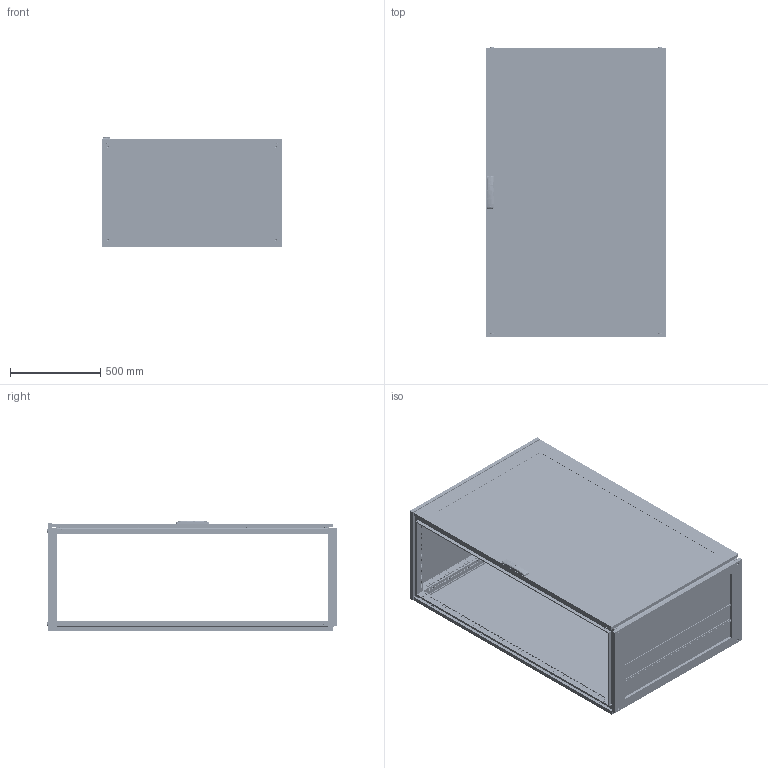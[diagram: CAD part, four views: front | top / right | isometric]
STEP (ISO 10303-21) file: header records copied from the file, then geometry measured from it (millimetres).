
FILE_DESCRIPTION (( 'STEP AP203' ), '1' );
FILE_NAME ('R5CQEN16106AX +.STEP', '2025-05-07T13:04:18', ( '' ), ( '' ), 'SwSTEP 2.0', 'SolidWorks 2022', '' );
FILE_SCHEMA (( 'CONFIG_CONTROL_DESIGN' ));
Length unit declared in the file: millimetre
Products named in the file (66): RB.1957.00.00.0 simple_-16; Square cap 20x20 simple; RB.2456.00.00.0 simple_-02; M6 MGR-MKO-0625 simple_Thread; RB.2969.00.00.0 СБ simple; RB.2680.00.00.0 СБ simple; RB.2499.01.00.0 СБ simple_-25; RB.2499.00.00.0 СБ simple_-26; TPA.08.0084.00.00.0 simple; M6 DIN 985 cl.6,0 Zinc_straight; RB.0528.00.01.0 simple_-03; RB.2680.00.02.0 simple; 4.8x13 DIN 7981 PH Zinc_straight; M8x12 AC00C476 cl.8,8 Zinc_stright; RB.2680.00.01.0 simple; RB.2357.00.00.0 simple_-07; RB.2968.00.00.0 simple; R5NCRE-Assem simple_R5NCRE16100; TPA.08.0083.00.00.0 simple; RB.1633.00.01.0 simple_-04; RB.0562.01.00.0 СБ simple_-11; RB.2755.00.00.0 СБ simple_-26; RB.2696.00.00.0 simple; M12x16 ISO 7380-1 HX cl.4,8 Zinc_straight; AC00C446-R; RB.2455.00.00.0 simple_-04; RB.2686.00.00.0 simple; Glass CPTE_1600x1000; RB.0562.00.00.0 СБ simple_-11; RB.0562.01.01.0 simple_-11; TPA.08.0139.00.01.0 simple; Pin 4x16 DIN 7 AISI 303 (A1) simple; RB.2969.00.01.0 simple; PF 7x14 CRE simple_1600x1000; RB.1867.01.01.0 simple_-17; RB.2052.01.00.0 СБ simple_-13; RB.0054.01.01.0 simple_-13; RB.2528.00.00.0 simple_-03; RB.1867.01.00.0 СБ simple_-60; ATOS Traction guide ILY03.35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
Assembly tree (176 placements, depth 5):
  R5CQEN16106AX +
    R5NCPTE - Assem simple_R5NCPTE16100
      RB.0562.00.00.0 СБ simple_-11
        RB.0562.01.00.0 СБ simple_-11
          RB.0562.01.01.0 simple_-11
          М6х12 A5100231_straight  x9
          RB.2702.00.00.0 simple  x4
          PF 7,5x15 CPE simple_1600x1000
          Glass CPTE_1600x1000
          Glue CPTE simple_1600x1000
        Square cap 20x20 simple  x2
        M6x15 Erickson cl.4,8 Zinc  x3
        RB.0528.00.01.0 simple_-03  x2
        ATOS Traction guide ILY03.35  x4
        RB.2357.00.00.0 simple_-07
        RB.2680.00.00.0 СБ simple
          TPA.08.0139.00.01.0 simple
          RB.2680.00.01.0 simple
          RB.2680.00.02.0 simple  x2
        TPA.08.0139.00.03.0  x2
        M6 DIN 985 cl.6,0 Zinc_straight  x4
        4,0x16 F Torx Zinc (ART 88200)_thread  x2
        RB.0528.04.00.0 СБ simple  x2
          RB.0528.04.01.0 simple
          Pressing stud FH-M6-12_M6x12mm
      M6x10 DIN 912 HX cl.8,8 Zinc_straight  x8
      4.8x13 DIN 7981 PH Zinc_straight
      7 DIN 6799 Zinc simple  x4
      RB.2968.00.00.0 simple  x4
      RB.2969.00.00.0 СБ simple  x4
        RB.2969.00.01.0 simple
        Pin 4x16 DIN 7 AISI 303 (A1) simple
        M6 MGR-MKO-0625 simple_Thread
      AC00C446-R
      RB.2696.00.00.0 simple  x4
      7 DIN 6799 Zinc  x4
    R5NCRE-Assem simple_R5NCRE16100
      RB.2052.00.00.0 СБ simple_-13
        RB.2052.01.00.0 СБ simple_-13
          RB.0054.01.01.0 simple_-13
          М6х12 A5100231_straight  x4
        PF 7x14 CRE simple_1600x1000
      RB.2172.00.00.1 simple  x8
      M6x10 DIN 7500 E HX cl.5.8 Zinc_straight  x8
      M6x10 DIN 7500 M Torx cl.5.8 Zinc_straight  x8
    R5NKMN - Assem simple_R5NKMN16 (1000х600)
      RB.2528.00.00.0 simple_-03  x4
    R5NKTB - Assem simple_H=1600 R5NKTB106
      RB.2499.00.00.0 СБ simple_-26
        RB.2499.01.00.0 СБ simple_-25
          RB.1633.00.01.0 simple_-04  x2
          RB.1633.00.02.0 simple_-02  x2
          PF 5x10 KTB simple_1000x600
        RB.2457.00.00.0 СБ simple_-26
          RB.2455.00.00.0 simple_-04  x2
          RB.2456.00.00.0 simple_-02  x2
          TPA.08.0084.00.00.0 simple  x2
          TPA.08.0083.00.00.0 simple  x2
          M8x12 AC00C476 cl.8,8 Zinc_stright  x4
        RB.1957.00.00.0 simple_-15  x2
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Bounding box: 1000 x 1613.3 x 614.74 mm (x, y, z)
Volume: 18298723.5 mm3; surface area: 15833435.2 mm2
Topology: 179 solids, 195 shells, 22045 faces, 62519 edges, 41156 vertices
Faces by surface type: plane 12211, cylinder 8283, cone 714, bspline 435, torus 368, sphere 34
Entity records: 222964 total; most frequent: CARTESIAN_POINT 55060, ORIENTED_EDGE 33230, DIRECTION 31767, EDGE_CURVE 16641, VERTEX_POINT 11014, AXIS2_PLACEMENT_3D 10696, VECTOR 10375, LINE 10375
